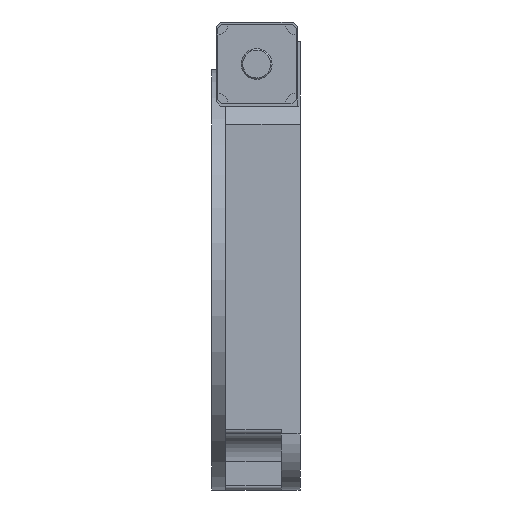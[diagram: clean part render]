
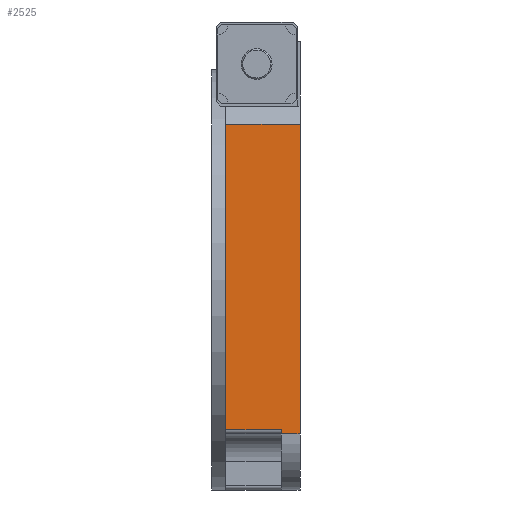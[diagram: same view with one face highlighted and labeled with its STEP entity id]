
A CAD part, left-side view. The second image highlights one B-rep face of the part: STEP entity #2525.
In plain terms, the highlighted planar face has unit normal (-1, 0, 0).
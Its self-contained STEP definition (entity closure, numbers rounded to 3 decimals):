
#19 = CARTESIAN_POINT ( 'NONE',  ( -150., 15.5, 170. ) ) ;
#153 = DIRECTION ( 'NONE',  ( 0., 0., -1. ) ) ;
#347 = EDGE_CURVE ( 'NONE', #4803, #3546, #5413, .T. ) ;
#411 = CARTESIAN_POINT ( 'NONE',  ( -150., 2., 111. ) ) ;
#558 = CARTESIAN_POINT ( 'NONE',  ( -150., 55., 170. ) ) ;
#599 = DIRECTION ( 'NONE',  ( 0., 1., 0. ) ) ;
#637 = LINE ( 'NONE', #19, #1375 ) ;
#776 = DIRECTION ( 'NONE',  ( 1., 0., 0. ) ) ;
#800 = VERTEX_POINT ( 'NONE', #411 ) ;
#1091 = CARTESIAN_POINT ( 'NONE',  ( -150., 55., -107. ) ) ;
#1173 = LINE ( 'NONE', #558, #3622 ) ;
#1219 = CARTESIAN_POINT ( 'NONE',  ( -150., 55., -107. ) ) ;
#1375 = VECTOR ( 'NONE', #5493, 1000. ) ;
#1397 = CARTESIAN_POINT ( 'NONE',  ( -150., 55., 170. ) ) ;
#1632 = VECTOR ( 'NONE', #4657, 1000. ) ;
#1808 = AXIS2_PLACEMENT_3D ( 'NONE', #1397, #776, #153 ) ;
#1845 = LINE ( 'NONE', #1219, #2402 ) ;
#2103 = ORIENTED_EDGE ( 'NONE', *, *, #347, .F. ) ;
#2340 = ORIENTED_EDGE ( 'NONE', *, *, #5068, .F. ) ;
#2402 = VECTOR ( 'NONE', #599, 1000. ) ;
#2525 = ADVANCED_FACE ( 'NONE', ( #5565 ), #2646, .F. ) ;
#2624 = ORIENTED_EDGE ( 'NONE', *, *, #5670, .F. ) ;
#2646 = PLANE ( 'NONE',  #1808 ) ;
#2730 = VECTOR ( 'NONE', #4447, 1000. ) ;
#2847 = VERTEX_POINT ( 'NONE', #4407 ) ;
#3121 = ORIENTED_EDGE ( 'NONE', *, *, #5971, .F. ) ;
#3125 = DIRECTION ( 'NONE',  ( 0., 0., 1. ) ) ;
#3211 = VERTEX_POINT ( 'NONE', #1091 ) ;
#3403 = CARTESIAN_POINT ( 'NONE',  ( -150., 55., 111. ) ) ;
#3546 = VERTEX_POINT ( 'NONE', #3403 ) ;
#3619 = VERTEX_POINT ( 'NONE', #4216 ) ;
#3622 = VECTOR ( 'NONE', #6044, 1000. ) ;
#3721 = VECTOR ( 'NONE', #3125, 1000. ) ;
#3749 = CARTESIAN_POINT ( 'NONE',  ( -150., 2., 170. ) ) ;
#3926 = EDGE_CURVE ( 'NONE', #3546, #800, #5914, .T. ) ;
#4031 = VECTOR ( 'NONE', #4158, 1000. ) ;
#4158 = DIRECTION ( 'NONE',  ( 0., 0., 1. ) ) ;
#4216 = CARTESIAN_POINT ( 'NONE',  ( -150., 2., -110. ) ) ;
#4400 = EDGE_LOOP ( 'NONE', ( #2340, #5106, #4516, #2103, #3121, #2624, #4801 ) ) ;
#4407 = CARTESIAN_POINT ( 'NONE',  ( -150., 15.5, -110. ) ) ;
#4447 = DIRECTION ( 'NONE',  ( 0., 1., 0. ) ) ;
#4515 = EDGE_CURVE ( 'NONE', #2847, #5880, #637, .T. ) ;
#4516 = ORIENTED_EDGE ( 'NONE', *, *, #3926, .F. ) ;
#4657 = DIRECTION ( 'NONE',  ( 0., -1., 0. ) ) ;
#4682 = CARTESIAN_POINT ( 'NONE',  ( -150., 55., 0. ) ) ;
#4788 = CARTESIAN_POINT ( 'NONE',  ( -150., 55., 170. ) ) ;
#4801 = ORIENTED_EDGE ( 'NONE', *, *, #4515, .F. ) ;
#4803 = VERTEX_POINT ( 'NONE', #4682 ) ;
#5006 = LINE ( 'NONE', #3749, #3721 ) ;
#5068 = EDGE_CURVE ( 'NONE', #3619, #2847, #5707, .T. ) ;
#5080 = CARTESIAN_POINT ( 'NONE',  ( -150., 55., -110. ) ) ;
#5106 = ORIENTED_EDGE ( 'NONE', *, *, #5291, .T. ) ;
#5276 = CARTESIAN_POINT ( 'NONE',  ( -150., 55., 111. ) ) ;
#5291 = EDGE_CURVE ( 'NONE', #3619, #800, #5006, .T. ) ;
#5413 = LINE ( 'NONE', #4788, #4031 ) ;
#5493 = DIRECTION ( 'NONE',  ( 0., 0., 1. ) ) ;
#5565 = FACE_OUTER_BOUND ( 'NONE', #4400, .T. ) ;
#5670 = EDGE_CURVE ( 'NONE', #5880, #3211, #1845, .T. ) ;
#5707 = LINE ( 'NONE', #5080, #2730 ) ;
#5880 = VERTEX_POINT ( 'NONE', #6009 ) ;
#5914 = LINE ( 'NONE', #5276, #1632 ) ;
#5971 = EDGE_CURVE ( 'NONE', #3211, #4803, #1173, .T. ) ;
#6009 = CARTESIAN_POINT ( 'NONE',  ( -150., 15.5, -107. ) ) ;
#6044 = DIRECTION ( 'NONE',  ( 0., 0., 1. ) ) ;
